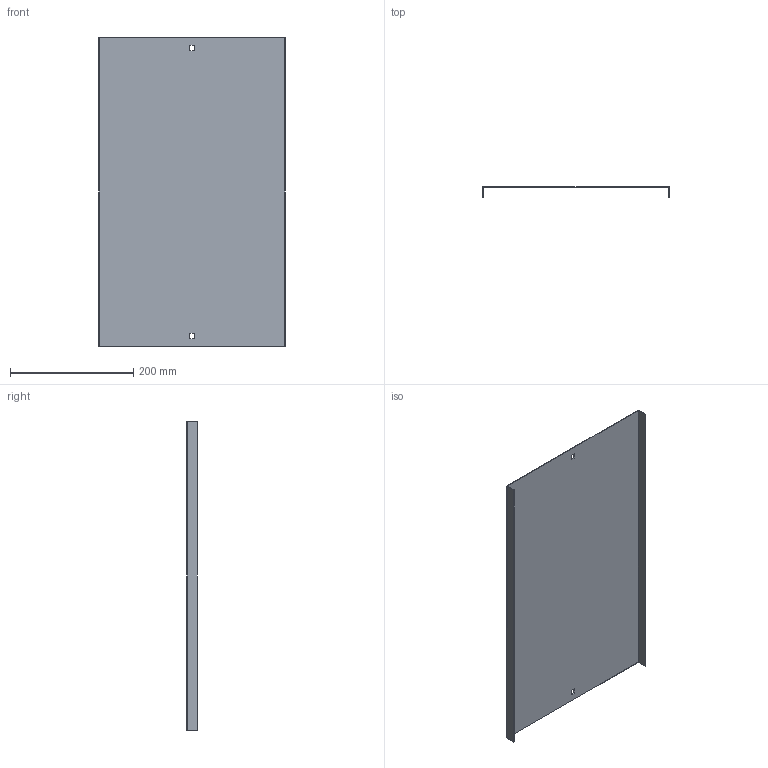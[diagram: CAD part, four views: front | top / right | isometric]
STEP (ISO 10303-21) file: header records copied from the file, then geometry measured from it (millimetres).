
FILE_DESCRIPTION (( 'STEP AP214' ), '1' );
FILE_NAME ('05G7R300.step', '2025-02-21T13:08:28', ( '' ), ( '' ), 'SwSTEP 2.0', 'SolidWorks 2023', '' );
FILE_SCHEMA (( 'AUTOMOTIVE_DESIGN' ));
Length unit declared in the file: millimetre
Products named in the file (1): 05G7R300
Bounding box: 302 x 16.5 x 500 mm (x, y, z)
Volume: 166383 mm3; surface area: 334494 mm2
Topology: 1 solids, 1 shells, 18 faces, 48 edges, 32 vertices
Faces by surface type: plane 18
Entity records: 583 total; most frequent: CARTESIAN_POINT 99, ORIENTED_EDGE 96, DIRECTION 86, LINE 48, VECTOR 48, EDGE_CURVE 48, VERTEX_POINT 32, EDGE_LOOP 22
